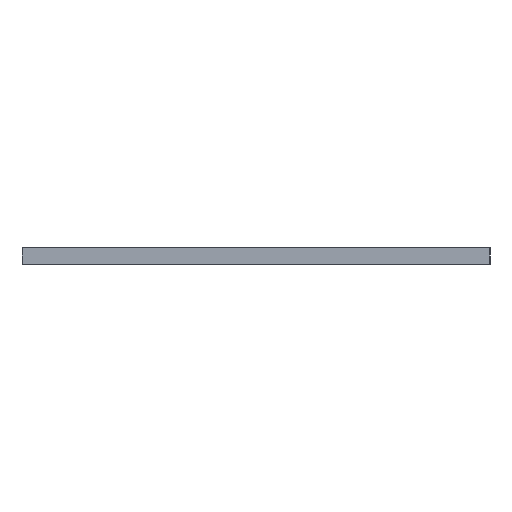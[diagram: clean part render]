
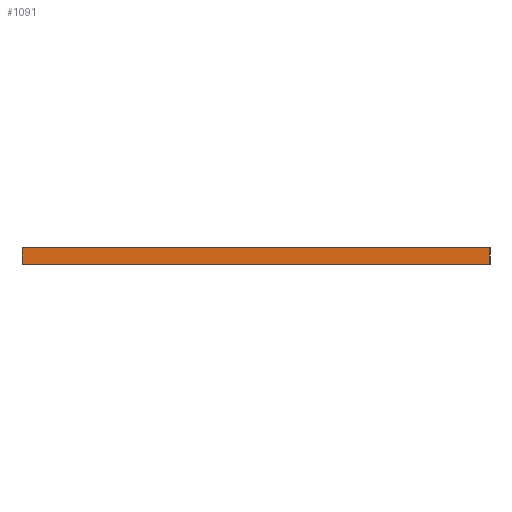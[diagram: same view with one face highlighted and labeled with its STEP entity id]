
A CAD part, left-side view. The second image highlights one B-rep face of the part: STEP entity #1091.
In plain terms, the highlighted planar face has unit normal (-1, 0, 0).
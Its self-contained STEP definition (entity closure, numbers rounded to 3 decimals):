
#21 = EDGE_CURVE('',#22,#24,#26,.T.);
#22 = VERTEX_POINT('',#23);
#23 = CARTESIAN_POINT('',(0.,0.,0.));
#24 = VERTEX_POINT('',#25);
#25 = CARTESIAN_POINT('',(0.,500.,0.));
#26 = SURFACE_CURVE('',#27,(#31,#43),.PCURVE_S1.);
#27 = LINE('',#28,#29);
#28 = CARTESIAN_POINT('',(0.,0.,0.));
#29 = VECTOR('',#30,1.);
#30 = DIRECTION('',(0.,1.,0.));
#31 = PCURVE('',#32,#37);
#32 = PLANE('',#33);
#33 = AXIS2_PLACEMENT_3D('',#34,#35,#36);
#34 = CARTESIAN_POINT('',(0.,0.,0.));
#35 = DIRECTION('',(0.,0.,-1.));
#36 = DIRECTION('',(1.,0.,0.));
#37 = DEFINITIONAL_REPRESENTATION('',(#38),#42);
#38 = LINE('',#39,#40);
#39 = CARTESIAN_POINT('',(0.,0.));
#40 = VECTOR('',#41,1.);
#41 = DIRECTION('',(0.,-1.));
#42 = ( GEOMETRIC_REPRESENTATION_CONTEXT(2) 
PARAMETRIC_REPRESENTATION_CONTEXT() REPRESENTATION_CONTEXT('2D SPACE',''
  ) );
#43 = PCURVE('',#44,#49);
#44 = PLANE('',#45);
#45 = AXIS2_PLACEMENT_3D('',#46,#47,#48);
#46 = CARTESIAN_POINT('',(0.,0.,18.));
#47 = DIRECTION('',(-1.,0.,0.));
#48 = DIRECTION('',(0.,0.,-1.));
#49 = DEFINITIONAL_REPRESENTATION('',(#50),#54);
#50 = LINE('',#51,#52);
#51 = CARTESIAN_POINT('',(18.,0.));
#52 = VECTOR('',#53,1.);
#53 = DIRECTION('',(0.,-1.));
#54 = ( GEOMETRIC_REPRESENTATION_CONTEXT(2) 
PARAMETRIC_REPRESENTATION_CONTEXT() REPRESENTATION_CONTEXT('2D SPACE',''
  ) );
#72 = PLANE('',#73);
#73 = AXIS2_PLACEMENT_3D('',#74,#75,#76);
#74 = CARTESIAN_POINT('',(500.,500.,9.));
#75 = DIRECTION('',(-0.,-1.,-0.));
#76 = DIRECTION('',(0.,0.,-1.));
#126 = PLANE('',#127);
#127 = AXIS2_PLACEMENT_3D('',#128,#129,#130);
#128 = CARTESIAN_POINT('',(500.,0.,9.));
#129 = DIRECTION('',(-0.,-1.,-0.));
#130 = DIRECTION('',(0.,0.,-1.));
#1091 = ADVANCED_FACE('',(#1092),#44,.T.);
#1092 = FACE_BOUND('',#1093,.T.);
#1093 = EDGE_LOOP('',(#1094,#1124,#1145,#1146));
#1094 = ORIENTED_EDGE('',*,*,#1095,.T.);
#1095 = EDGE_CURVE('',#1096,#1098,#1100,.T.);
#1096 = VERTEX_POINT('',#1097);
#1097 = CARTESIAN_POINT('',(0.,0.,18.));
#1098 = VERTEX_POINT('',#1099);
#1099 = CARTESIAN_POINT('',(0.,500.,18.));
#1100 = SURFACE_CURVE('',#1101,(#1105,#1112),.PCURVE_S1.);
#1101 = LINE('',#1102,#1103);
#1102 = CARTESIAN_POINT('',(0.,0.,18.));
#1103 = VECTOR('',#1104,1.);
#1104 = DIRECTION('',(0.,1.,0.));
#1105 = PCURVE('',#44,#1106);
#1106 = DEFINITIONAL_REPRESENTATION('',(#1107),#1111);
#1107 = LINE('',#1108,#1109);
#1108 = CARTESIAN_POINT('',(0.,-0.));
#1109 = VECTOR('',#1110,1.);
#1110 = DIRECTION('',(0.,-1.));
#1111 = ( GEOMETRIC_REPRESENTATION_CONTEXT(2) 
PARAMETRIC_REPRESENTATION_CONTEXT() REPRESENTATION_CONTEXT('2D SPACE',''
  ) );
#1112 = PCURVE('',#1113,#1118);
#1113 = PLANE('',#1114);
#1114 = AXIS2_PLACEMENT_3D('',#1115,#1116,#1117);
#1115 = CARTESIAN_POINT('',(1000.,0.,18.));
#1116 = DIRECTION('',(0.,-0.,1.));
#1117 = DIRECTION('',(-1.,0.,0.));
#1118 = DEFINITIONAL_REPRESENTATION('',(#1119),#1123);
#1119 = LINE('',#1120,#1121);
#1120 = CARTESIAN_POINT('',(1000.,0.));
#1121 = VECTOR('',#1122,1.);
#1122 = DIRECTION('',(0.,-1.));
#1123 = ( GEOMETRIC_REPRESENTATION_CONTEXT(2) 
PARAMETRIC_REPRESENTATION_CONTEXT() REPRESENTATION_CONTEXT('2D SPACE',''
  ) );
#1124 = ORIENTED_EDGE('',*,*,#1125,.T.);
#1125 = EDGE_CURVE('',#1098,#24,#1126,.T.);
#1126 = SURFACE_CURVE('',#1127,(#1131,#1138),.PCURVE_S1.);
#1127 = LINE('',#1128,#1129);
#1128 = CARTESIAN_POINT('',(0.,500.,18.));
#1129 = VECTOR('',#1130,1.);
#1130 = DIRECTION('',(0.,0.,-1.));
#1131 = PCURVE('',#44,#1132);
#1132 = DEFINITIONAL_REPRESENTATION('',(#1133),#1137);
#1133 = LINE('',#1134,#1135);
#1134 = CARTESIAN_POINT('',(0.,-500.));
#1135 = VECTOR('',#1136,1.);
#1136 = DIRECTION('',(1.,0.));
#1137 = ( GEOMETRIC_REPRESENTATION_CONTEXT(2) 
PARAMETRIC_REPRESENTATION_CONTEXT() REPRESENTATION_CONTEXT('2D SPACE',''
  ) );
#1138 = PCURVE('',#72,#1139);
#1139 = DEFINITIONAL_REPRESENTATION('',(#1140),#1144);
#1140 = LINE('',#1141,#1142);
#1141 = CARTESIAN_POINT('',(-9.,-500.));
#1142 = VECTOR('',#1143,1.);
#1143 = DIRECTION('',(1.,0.));
#1144 = ( GEOMETRIC_REPRESENTATION_CONTEXT(2) 
PARAMETRIC_REPRESENTATION_CONTEXT() REPRESENTATION_CONTEXT('2D SPACE',''
  ) );
#1145 = ORIENTED_EDGE('',*,*,#21,.F.);
#1146 = ORIENTED_EDGE('',*,*,#1147,.F.);
#1147 = EDGE_CURVE('',#1096,#22,#1148,.T.);
#1148 = SURFACE_CURVE('',#1149,(#1153,#1160),.PCURVE_S1.);
#1149 = LINE('',#1150,#1151);
#1150 = CARTESIAN_POINT('',(0.,0.,18.));
#1151 = VECTOR('',#1152,1.);
#1152 = DIRECTION('',(0.,0.,-1.));
#1153 = PCURVE('',#44,#1154);
#1154 = DEFINITIONAL_REPRESENTATION('',(#1155),#1159);
#1155 = LINE('',#1156,#1157);
#1156 = CARTESIAN_POINT('',(0.,-0.));
#1157 = VECTOR('',#1158,1.);
#1158 = DIRECTION('',(1.,0.));
#1159 = ( GEOMETRIC_REPRESENTATION_CONTEXT(2) 
PARAMETRIC_REPRESENTATION_CONTEXT() REPRESENTATION_CONTEXT('2D SPACE',''
  ) );
#1160 = PCURVE('',#126,#1161);
#1161 = DEFINITIONAL_REPRESENTATION('',(#1162),#1166);
#1162 = LINE('',#1163,#1164);
#1163 = CARTESIAN_POINT('',(-9.,-500.));
#1164 = VECTOR('',#1165,1.);
#1165 = DIRECTION('',(1.,0.));
#1166 = ( GEOMETRIC_REPRESENTATION_CONTEXT(2) 
PARAMETRIC_REPRESENTATION_CONTEXT() REPRESENTATION_CONTEXT('2D SPACE',''
  ) );
